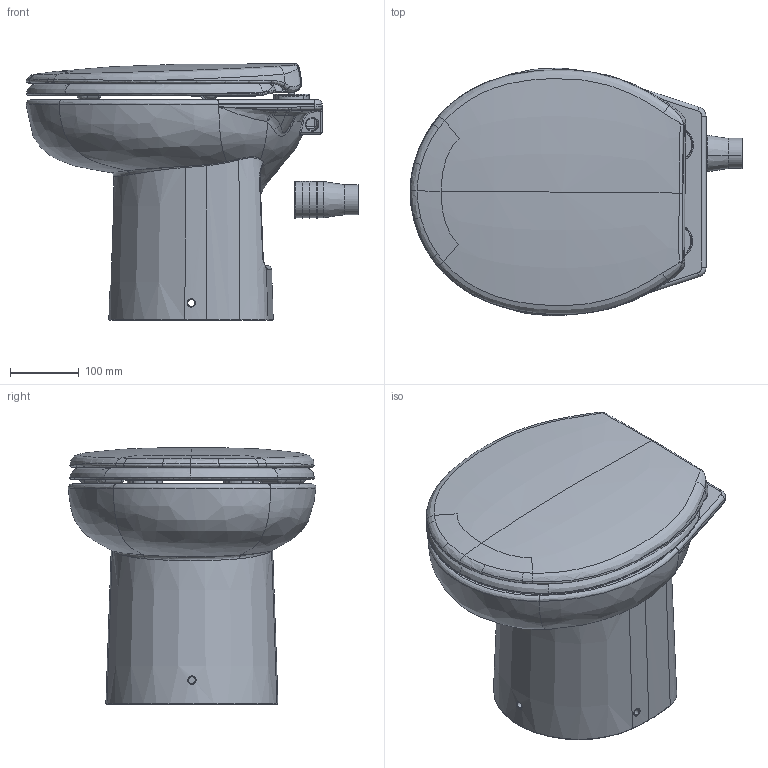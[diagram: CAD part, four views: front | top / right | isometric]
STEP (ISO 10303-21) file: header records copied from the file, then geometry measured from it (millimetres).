
FILE_DESCRIPTION (( 'STEP AP214' ), '1' );
FILE_NAME ('SN 31 COMFORT 2015 WEB.STEP', '2016-03-24T10:09:51', ( 'admin' ), ( '' ), 'SwSTEP 2.0', 'SolidWorks 2015', '' );
FILE_SCHEMA (( 'AUTOMOTIVE_DESIGN' ));
Length unit declared in the file: millimetre
Products named in the file (21): 1S0077-000; 1S0019-00G; 1S0018-00G; 1U1030-C0-00; 1U1030-D0-00; DUR2051595; BLOC MOTEUR POMPE 220V_SN 31; no return valve; SOR2051517; SN31; ENSEMBLE AXE ABATTANT; SN 31 COMFORT 2015 WEB; 1S0035-00G; 1S0034-000; 1S0078-000; ABATTANT CHINOIS SN31_OUVERT; FIXATION CERAMIQUE; VIS fix sol  6.5x65_M5x40; 21001-000; 1S0042-00B; 1S0015-000
Assembly tree (25 placements, depth 5):
  DUR2051595
  SN 31 COMFORT 2015 WEB
    SN31
    BLOC MOTEUR POMPE 220V_SN 31
      no return valve
        SOR2051517
    ABATTANT CHINOIS SN31_OUVERT
      1U1030-D0-00
      1U1030-C0-00
      1S0018-00G  x2
      1S0019-00G  x4
      ENSEMBLE AXE ABATTANT
        1S0077-000
        FIXATION CERAMIQUE  x2
          1S0015-000
          1S0042-00B
          21001-000
          VIS fix sol  6.5x65_M5x40
        1S0078-000
        1S0034-000
        1S0035-00G  x2
Bounding box: 482.07 x 359.59 x 372.31 mm (x, y, z)
Volume: 5536208 mm3; surface area: 1403523.7 mm2
Topology: 23 solids, 23 shells, 2036 faces, 5173 edges, 3206 vertices
Faces by surface type: bspline 791, plane 527, cylinder 455, cone 211, torus 38, sphere 14
Entity records: 156135 total; most frequent: CARTESIAN_POINT 124406, ORIENTED_EDGE 7916, DIRECTION 4344, EDGE_CURVE 3958, VERTEX_POINT 2434, B_SPLINE_CURVE_WITH_KNOTS 1850, EDGE_LOOP 1674, AXIS2_PLACEMENT_3D 1635
